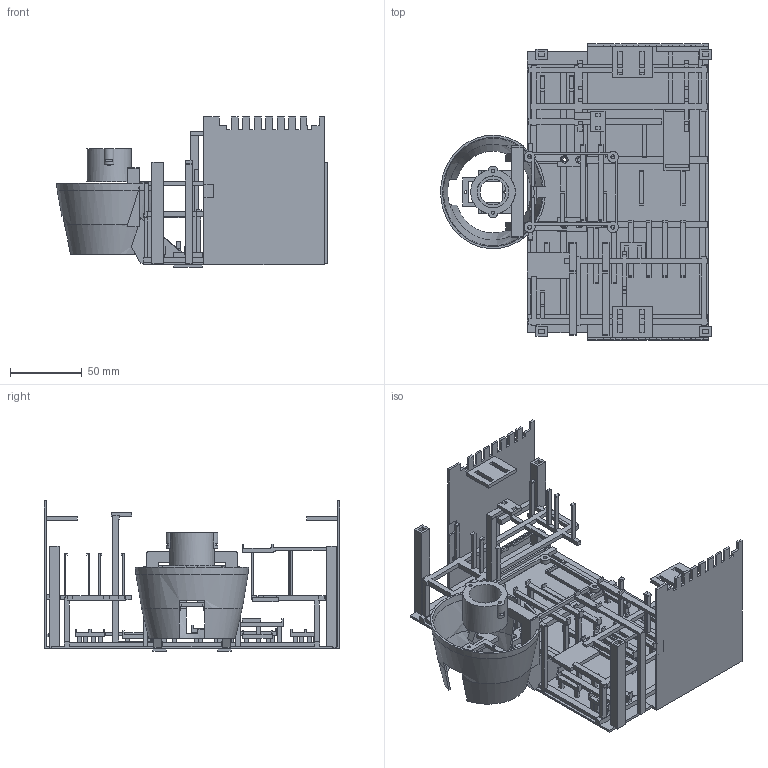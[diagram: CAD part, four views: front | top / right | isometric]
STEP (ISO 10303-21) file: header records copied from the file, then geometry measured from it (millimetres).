
FILE_DESCRIPTION(('Open CASCADE Model'),'2;1');
FILE_NAME('Open CASCADE Shape Model','2026-11-19T19:55:51',('Author'),( 'Open CASCADE'),'Open CASCADE STEP processor 8.0','Open CASCADE 8.0' ,'Unknown');
FILE_SCHEMA(('AUTOMOTIVE_DESIGN { 1 0 10303 214 1 1 1 1 }'));
Products named in the file (1): Open CASCADE STEP translator 8.0 3
Bounding box: 188.6 x 206 x 104.48 mm (x, y, z)
Volume: 173130.9 mm3; surface area: 178855.8 mm2
Topology: 1 solids, 1 shells, 1491 faces, 4405 edges, 2942 vertices
Faces by surface type: plane 1437, cylinder 35, bspline 14, cone 5
Full cylindrical faces by diameter (mm): 1.8 x2, 2.2 x6, 2.3 x2, 2.76 x4, 2.8 x5, 18 x1, 22.12 x1, 22.2 x1, 31 x1
Entity records: 105979 total; most frequent: CARTESIAN_POINT 24425, DIRECTION 12742, LINE 9312, VECTOR 9312, ORIENTED_EDGE 8810, PCURVE 8810, DEFINITIONAL_REPRESENTATION 8810, EDGE_CURVE 4405
